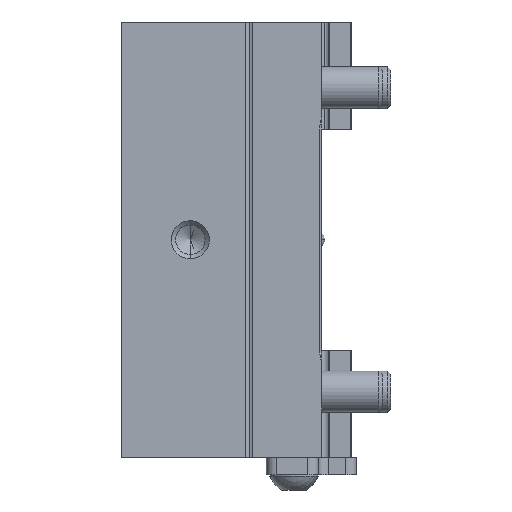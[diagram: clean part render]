
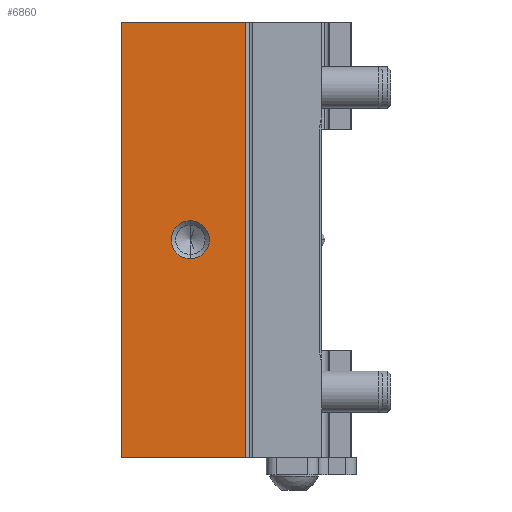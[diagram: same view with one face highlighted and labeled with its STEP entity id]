
A CAD part, left-side view. The second image highlights one B-rep face of the part: STEP entity #6860.
In plain terms, the highlighted planar face has unit normal (-1, 0, 0).
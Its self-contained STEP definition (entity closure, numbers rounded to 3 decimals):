
#215 = VERTEX_POINT ( 'NONE', #1725 ) ;
#365 = LINE ( 'NONE', #1059, #4403 ) ;
#373 = DIRECTION ( 'NONE',  ( 0., -1., 0. ) ) ;
#408 = LINE ( 'NONE', #5553, #5533 ) ;
#475 = ORIENTED_EDGE ( 'NONE', *, *, #1539, .F. ) ;
#549 = DIRECTION ( 'NONE',  ( 0., 0., -1. ) ) ;
#557 = CARTESIAN_POINT ( 'NONE',  ( -33., 66.5, 63. ) ) ;
#642 = LINE ( 'NONE', #1890, #5358 ) ;
#942 = VECTOR ( 'NONE', #6662, 1000. ) ;
#1059 = CARTESIAN_POINT ( 'NONE',  ( -33., 66.5, 63. ) ) ;
#1125 = ORIENTED_EDGE ( 'NONE', *, *, #4459, .F. ) ;
#1317 = AXIS2_PLACEMENT_3D ( 'NONE', #6415, #2115, #5825 ) ;
#1539 = EDGE_CURVE ( 'NONE', #5495, #4462, #408, .T. ) ;
#1603 = CARTESIAN_POINT ( 'NONE',  ( -33., 30.621, 63. ) ) ;
#1613 = CARTESIAN_POINT ( 'NONE',  ( -33., 30.621, -63. ) ) ;
#1725 = CARTESIAN_POINT ( 'NONE',  ( -33., 46.5, 5.5 ) ) ;
#1890 = CARTESIAN_POINT ( 'NONE',  ( -33., 66.5, -63. ) ) ;
#2115 = DIRECTION ( 'NONE',  ( -1., 0., 0. ) ) ;
#2497 = ORIENTED_EDGE ( 'NONE', *, *, #3842, .F. ) ;
#2536 = AXIS2_PLACEMENT_3D ( 'NONE', #3622, #5975, #4886 ) ;
#2563 = CARTESIAN_POINT ( 'NONE',  ( -33., 46.5, -5.5 ) ) ;
#2614 = EDGE_CURVE ( 'NONE', #3931, #5481, #642, .T. ) ;
#2929 = CARTESIAN_POINT ( 'NONE',  ( -33., 30.621, -63. ) ) ;
#3141 = FACE_OUTER_BOUND ( 'NONE', #3856, .T. ) ;
#3607 = ORIENTED_EDGE ( 'NONE', *, *, #2614, .T. ) ;
#3622 = CARTESIAN_POINT ( 'NONE',  ( -33., 66.5, 63. ) ) ;
#3842 = EDGE_CURVE ( 'NONE', #215, #6700, #5338, .T. ) ;
#3856 = EDGE_LOOP ( 'NONE', ( #3607, #4535, #475, #5089 ) ) ;
#3931 = VERTEX_POINT ( 'NONE', #6358 ) ;
#3963 = AXIS2_PLACEMENT_3D ( 'NONE', #5242, #4237, #4709 ) ;
#4237 = DIRECTION ( 'NONE',  ( -1., 0., 0. ) ) ;
#4370 = FACE_BOUND ( 'NONE', #5584, .T. ) ;
#4378 = EDGE_CURVE ( 'NONE', #5495, #3931, #365, .T. ) ;
#4403 = VECTOR ( 'NONE', #549, 1000. ) ;
#4459 = EDGE_CURVE ( 'NONE', #6700, #215, #6094, .T. ) ;
#4462 = VERTEX_POINT ( 'NONE', #1603 ) ;
#4535 = ORIENTED_EDGE ( 'NONE', *, *, #5676, .T. ) ;
#4709 = DIRECTION ( 'NONE',  ( 0., 0., 1. ) ) ;
#4886 = DIRECTION ( 'NONE',  ( 0., 0., -1. ) ) ;
#5089 = ORIENTED_EDGE ( 'NONE', *, *, #4378, .T. ) ;
#5242 = CARTESIAN_POINT ( 'NONE',  ( -33., 46.5, 0. ) ) ;
#5338 = CIRCLE ( 'NONE', #3963, 5.5 ) ;
#5358 = VECTOR ( 'NONE', #373, 1000. ) ;
#5481 = VERTEX_POINT ( 'NONE', #1613 ) ;
#5495 = VERTEX_POINT ( 'NONE', #557 ) ;
#5533 = VECTOR ( 'NONE', #6095, 1000. ) ;
#5553 = CARTESIAN_POINT ( 'NONE',  ( -33., 66.5, 63. ) ) ;
#5584 = EDGE_LOOP ( 'NONE', ( #2497, #1125 ) ) ;
#5676 = EDGE_CURVE ( 'NONE', #5481, #4462, #6331, .T. ) ;
#5825 = DIRECTION ( 'NONE',  ( 0., 0., 1. ) ) ;
#5975 = DIRECTION ( 'NONE',  ( 1., 0., 0. ) ) ;
#6094 = CIRCLE ( 'NONE', #1317, 5.5 ) ;
#6095 = DIRECTION ( 'NONE',  ( 0., -1., 0. ) ) ;
#6331 = LINE ( 'NONE', #2929, #942 ) ;
#6358 = CARTESIAN_POINT ( 'NONE',  ( -33., 66.5, -63. ) ) ;
#6384 = PLANE ( 'NONE',  #2536 ) ;
#6415 = CARTESIAN_POINT ( 'NONE',  ( -33., 46.5, 0. ) ) ;
#6662 = DIRECTION ( 'NONE',  ( 0., 0., 1. ) ) ;
#6700 = VERTEX_POINT ( 'NONE', #2563 ) ;
#6860 = ADVANCED_FACE ( 'NONE', ( #4370, #3141 ), #6384, .F. ) ;
